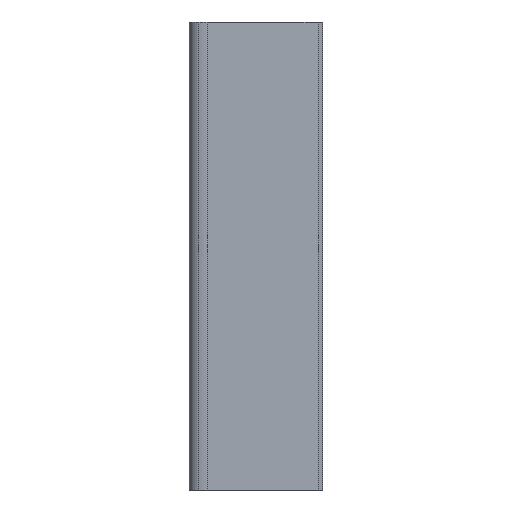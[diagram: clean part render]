
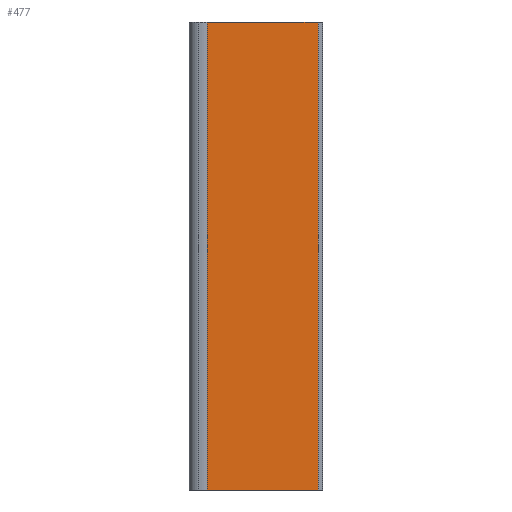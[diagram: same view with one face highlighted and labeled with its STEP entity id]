
A CAD part, left-side view. The second image highlights one B-rep face of the part: STEP entity #477.
In plain terms, the highlighted planar face has unit normal (-1, 0, 0).
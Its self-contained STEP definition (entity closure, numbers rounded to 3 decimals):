
#55 = ORIENTED_EDGE ( 'NONE', *, *, #1338, .T. ) ;
#56 = ORIENTED_EDGE ( 'NONE', *, *, #1202, .F. ) ;
#57 = ORIENTED_EDGE ( 'NONE', *, *, #1269, .T. ) ;
#59 = ORIENTED_EDGE ( 'NONE', *, *, #1259, .F. ) ;
#112 = DIRECTION ( 'NONE',  ( 0., -1., 0. ) ) ;
#237 = EDGE_LOOP ( 'NONE', ( #57, #59, #56, #55 ) ) ;
#341 = VERTEX_POINT ( 'NONE', #501 ) ;
#477 = ADVANCED_FACE ( 'NONE', ( #990 ), #1119, .F. ) ;
#501 = CARTESIAN_POINT ( 'NONE',  ( -8.945, -78.967, 318. ) ) ;
#517 = LINE ( 'NONE', #838, #594 ) ;
#559 = VECTOR ( 'NONE', #716, 1000. ) ;
#560 = LINE ( 'NONE', #715, #559 ) ;
#594 = VECTOR ( 'NONE', #112, 1000. ) ;
#604 = VECTOR ( 'NONE', #831, 1000. ) ;
#628 = CARTESIAN_POINT ( 'NONE',  ( -8.945, -78.967, 0. ) ) ;
#632 = CARTESIAN_POINT ( 'NONE',  ( -8.945, -3.6, 0. ) ) ;
#667 = CARTESIAN_POINT ( 'NONE',  ( -8.945, -3.6, 318. ) ) ;
#670 = DIRECTION ( 'NONE',  ( 0., -1., 0. ) ) ;
#715 = CARTESIAN_POINT ( 'NONE',  ( -8.945, -3.6, 318. ) ) ;
#716 = DIRECTION ( 'NONE',  ( 0., 0., -1. ) ) ;
#828 = CARTESIAN_POINT ( 'NONE',  ( -8.945, -78.967, 318. ) ) ;
#831 = DIRECTION ( 'NONE',  ( 0., 0., -1. ) ) ;
#838 = CARTESIAN_POINT ( 'NONE',  ( -8.945, -3.6, 0. ) ) ;
#868 = VERTEX_POINT ( 'NONE', #1175 ) ;
#885 = VERTEX_POINT ( 'NONE', #628 ) ;
#889 = VERTEX_POINT ( 'NONE', #632 ) ;
#904 = LINE ( 'NONE', #828, #604 ) ;
#951 = VECTOR ( 'NONE', #670, 1000. ) ;
#954 = LINE ( 'NONE', #667, #951 ) ;
#990 = FACE_OUTER_BOUND ( 'NONE', #237, .T. ) ;
#1119 = PLANE ( 'NONE',  #1314 ) ;
#1122 = CARTESIAN_POINT ( 'NONE',  ( -8.945, -3.6, 318. ) ) ;
#1128 = DIRECTION ( 'NONE',  ( 1., 0., 0. ) ) ;
#1129 = DIRECTION ( 'NONE',  ( 0., 1., 0. ) ) ;
#1175 = CARTESIAN_POINT ( 'NONE',  ( -8.945, -3.6, 318. ) ) ;
#1202 = EDGE_CURVE ( 'NONE', #868, #341, #954, .T. ) ;
#1259 = EDGE_CURVE ( 'NONE', #341, #885, #904, .T. ) ;
#1269 = EDGE_CURVE ( 'NONE', #889, #885, #517, .T. ) ;
#1314 = AXIS2_PLACEMENT_3D ( 'NONE', #1122, #1128, #1129 ) ;
#1338 = EDGE_CURVE ( 'NONE', #868, #889, #560, .T. ) ;
